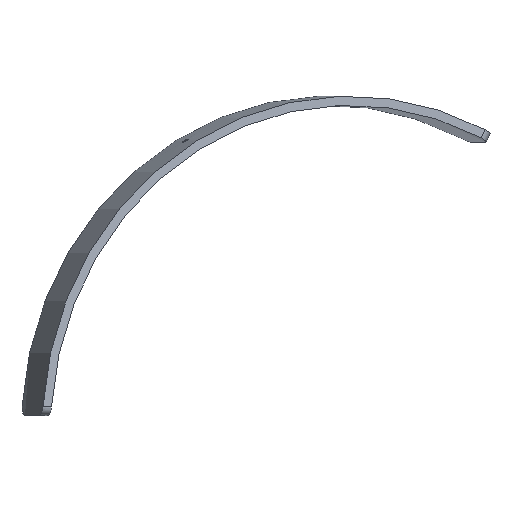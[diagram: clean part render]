
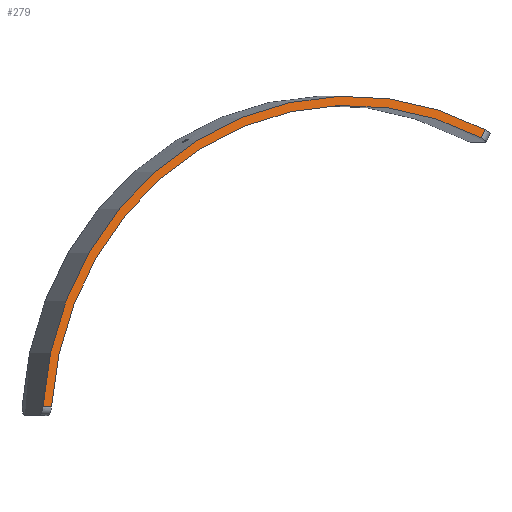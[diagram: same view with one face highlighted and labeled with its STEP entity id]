
A CAD part, left-side view. The second image highlights one B-rep face of the part: STEP entity #279.
In plain terms, the highlighted planar face has unit normal (-0.924, -0.383, 0).
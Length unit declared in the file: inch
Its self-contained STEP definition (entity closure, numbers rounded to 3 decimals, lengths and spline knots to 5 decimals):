
#1 = VERTEX_POINT ( 'NONE', #286 ) ;
#31 = CARTESIAN_POINT ( 'NONE',  ( 48.94517, -126.00346, 31.86468 ) ) ;
#35 = CIRCLE ( 'NONE', #293, 36.44 ) ;
#52 = CIRCLE ( 'NONE', #442, 35.44 ) ;
#57 = ORIENTED_EDGE ( 'NONE', *, *, #366, .T. ) ;
#103 = ORIENTED_EDGE ( 'NONE', *, *, #264, .F. ) ;
#108 = LINE ( 'NONE', #333, #455 ) ;
#189 = AXIS2_PLACEMENT_3D ( 'NONE', #386, #687, #754 ) ;
#202 = DIRECTION ( 'NONE',  ( -0.924, -0.383, 0. ) ) ;
#206 = LINE ( 'NONE', #557, #593 ) ;
#207 = DIRECTION ( 'NONE',  ( -0.924, -0.383, 0. ) ) ;
#211 = CARTESIAN_POINT ( 'NONE',  ( 43.00881, -111.67183, 0. ) ) ;
#216 = CARTESIAN_POINT ( 'NONE',  ( 49.12238, -126.43129, 32.75143 ) ) ;
#262 = CARTESIAN_POINT ( 'NONE',  ( 29.09777, -78.0876, 2.54085 ) ) ;
#264 = EDGE_CURVE ( 'NONE', #730, #1, #52, .T. ) ;
#279 = ADVANCED_FACE ( 'NONE', ( #497 ), #441, .F. ) ;
#286 = CARTESIAN_POINT ( 'NONE',  ( 29.48026, -79.01101, 2.49851 ) ) ;
#293 = AXIS2_PLACEMENT_3D ( 'NONE', #211, #202, #662 ) ;
#314 = DIRECTION ( 'NONE',  ( 0.177, -0.428, 0.886 ) ) ;
#315 = DIRECTION ( 'NONE',  ( 0.383, -0.924, 0. ) ) ;
#319 = EDGE_CURVE ( 'NONE', #734, #1, #108, .T. ) ;
#333 = CARTESIAN_POINT ( 'NONE',  ( 43.02501, -111.71094, 0.9991 ) ) ;
#366 = EDGE_CURVE ( 'NONE', #737, #734, #35, .T. ) ;
#380 = ORIENTED_EDGE ( 'NONE', *, *, #319, .T. ) ;
#386 = CARTESIAN_POINT ( 'NONE',  ( 43.00881, -111.67183, 0. ) ) ;
#404 = EDGE_CURVE ( 'NONE', #730, #737, #206, .T. ) ;
#441 = PLANE ( 'NONE',  #189 ) ;
#442 = AXIS2_PLACEMENT_3D ( 'NONE', #667, #207, #315 ) ;
#455 = VECTOR ( 'NONE', #580, 39.37008 ) ;
#497 = FACE_OUTER_BOUND ( 'NONE', #727, .T. ) ;
#515 = ORIENTED_EDGE ( 'NONE', *, *, #404, .T. ) ;
#557 = CARTESIAN_POINT ( 'NONE',  ( 42.6696, -110.8529, 0.46291 ) ) ;
#580 = DIRECTION ( 'NONE',  ( 0.382, -0.923, -0.042 ) ) ;
#593 = VECTOR ( 'NONE', #314, 39.37008 ) ;
#662 = DIRECTION ( 'NONE',  ( 0.383, -0.924, 0. ) ) ;
#667 = CARTESIAN_POINT ( 'NONE',  ( 43.00881, -111.67183, 0. ) ) ;
#687 = DIRECTION ( 'NONE',  ( 0.924, 0.383, 0. ) ) ;
#727 = EDGE_LOOP ( 'NONE', ( #57, #380, #103, #515 ) ) ;
#730 = VERTEX_POINT ( 'NONE', #31 ) ;
#734 = VERTEX_POINT ( 'NONE', #262 ) ;
#737 = VERTEX_POINT ( 'NONE', #216 ) ;
#754 = DIRECTION ( 'NONE',  ( -0.383, 0.924, 0. ) ) ;
